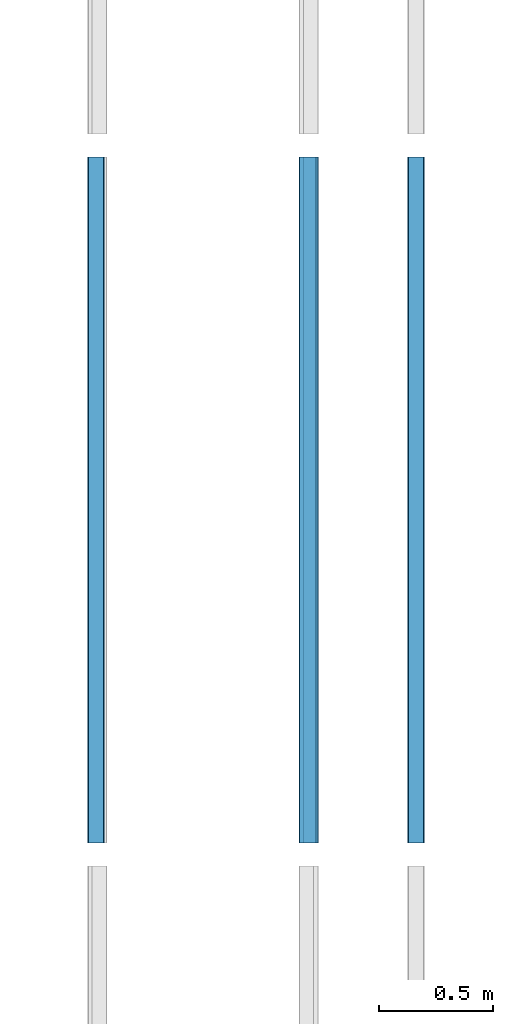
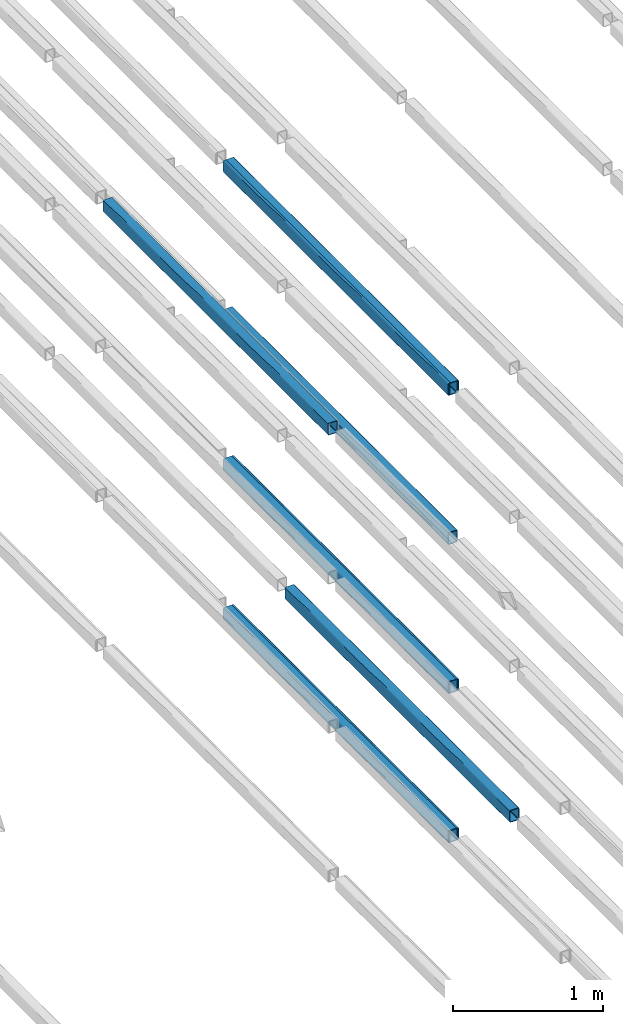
# One storey, part 39 of 290: 9 beams.
"""IFC2X3 building model written with IfcOpenShell, lengths in metres."""

from ifc_helpers import new_model, entity, si_unit, converted_unit, derived_unit, direction, frame, frame_2d, origin, place, context, subcontext, project, spatial, polyline, circle_curve, parameter, trimmed, segment, composite_curve, outline, extrude, material, type_object, element, save


model = new_model("IFC2X3")

# Units and contexts
model_context = context("Model", 3, precision=1e-05, world=origin(), true_north=direction((6.12303176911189e-17, 1.0)))
body_context = subcontext(model_context, "Body", "Model", "MODEL_VIEW")
ifc_project = project(units=[si_unit("LENGTHUNIT", "METRE"), si_unit("AREAUNIT", "SQUARE_METRE"), si_unit("VOLUMEUNIT", "CUBIC_METRE"), converted_unit("PLANEANGLEUNIT", "DEGREE", entity("IfcRatioMeasure", 0.0174532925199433), si_unit("PLANEANGLEUNIT", "RADIAN"), dimensions=[0, 0, 0, 0, 0, 0, 0]), si_unit("MASSUNIT", "GRAM", prefix="KILO"), derived_unit("MASSDENSITYUNIT", [(si_unit("MASSUNIT", "GRAM", prefix="KILO"), 1), (si_unit("LENGTHUNIT", "METRE"), -3)]), derived_unit("MOMENTOFINERTIAUNIT", [(si_unit("LENGTHUNIT", "METRE"), 4)]), si_unit("TIMEUNIT", "SECOND"), si_unit("FREQUENCYUNIT", "HERTZ"), si_unit("THERMODYNAMICTEMPERATUREUNIT", "DEGREE_CELSIUS"), derived_unit("THERMALTRANSMITTANCEUNIT", [(si_unit("MASSUNIT", "GRAM", prefix="KILO"), 1), (si_unit("THERMODYNAMICTEMPERATUREUNIT", "KELVIN"), -1), (si_unit("TIMEUNIT", "SECOND"), -3)]), derived_unit("VOLUMETRICFLOWRATEUNIT", [(si_unit("LENGTHUNIT", "METRE"), 3), (si_unit("TIMEUNIT", "SECOND"), -1)]), si_unit("ELECTRICCURRENTUNIT", "AMPERE"), si_unit("ELECTRICVOLTAGEUNIT", "VOLT"), si_unit("POWERUNIT", "WATT"), si_unit("FORCEUNIT", "NEWTON", prefix="KILO"), si_unit("ILLUMINANCEUNIT", "LUX"), si_unit("LUMINOUSFLUXUNIT", "LUMEN"), si_unit("LUMINOUSINTENSITYUNIT", "CANDELA"), derived_unit("USERDEFINED", [(si_unit("MASSUNIT", "GRAM", prefix="KILO"), -1), (si_unit("LENGTHUNIT", "METRE"), -2), (si_unit("TIMEUNIT", "SECOND"), 3), (si_unit("LUMINOUSFLUXUNIT", "LUMEN"), 1)]), derived_unit("LINEARVELOCITYUNIT", [(si_unit("LENGTHUNIT", "METRE"), 1), (si_unit("TIMEUNIT", "SECOND"), -1)]), si_unit("PRESSUREUNIT", "PASCAL"), derived_unit("USERDEFINED", [(si_unit("LENGTHUNIT", "METRE"), -2), (si_unit("MASSUNIT", "GRAM", prefix="KILO"), 1), (si_unit("TIMEUNIT", "SECOND"), -2)]), derived_unit("LINEARFORCEUNIT", [(si_unit("MASSUNIT", "GRAM", prefix="KILO"), 1), (si_unit("LENGTHUNIT", "METRE"), 1), (si_unit("TIMEUNIT", "SECOND"), -2), (si_unit("LENGTHUNIT", "METRE"), -1)]), derived_unit("PLANARFORCEUNIT", [(si_unit("MASSUNIT", "GRAM", prefix="KILO"), 1), (si_unit("LENGTHUNIT", "METRE"), 1), (si_unit("TIMEUNIT", "SECOND"), -2), (si_unit("LENGTHUNIT", "METRE"), -2)])], contexts=[model_context])

# Site, building, storey
site_placement = place(None, origin())
site = spatial("IfcSite", under=ifc_project, at=site_placement, Name="Default", CompositionType="ELEMENT")
building_placement = place(site_placement, origin())
building = spatial("IfcBuilding", under=site, at=building_placement, CompositionType="ELEMENT")
storey_placement = place(building_placement, frame((0.0, 0.0, 4.0)))
storey = spatial("IfcBuildingStorey", under=building, at=storey_placement, Name="01_OG", CompositionType="ELEMENT", Elevation=4.0)

# Beams
ifc_material = material(Name="Metall - Baustahl S235 blau")
beam_type = type_object("IfcBeamType", Name="RHS Träger (EN 10219-2):RHS 100 x 75 x 5", PredefinedType="NOTDEFINED")
beam_1_placement = place(storey_placement, frame((-200.715111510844, 30.248088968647, -1.2), z_axis=(0.0, 0.0, 1.0), x_axis=(0.0, 1.0, 0.0)))
element("IfcBeam", 1, at=beam_1_placement, inside=storey, type_object=beam_type, material=ifc_material, Name="RHS Träger (EN 10219-2):RHS 100 x 75 x 5", ObjectType="RHS Träger (EN 10219-2):RHS 100 x 75 x 5", context=body_context, shape_type="SweptSolid", body=[
    extrude(outline(composite_curve([segment(trimmed(circle_curve(frame_2d((-0.0274999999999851, -0.0400000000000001), x_axis=(1.0, 0.0)), 0.01), [parameter(180.0)], [parameter(270.0)], True, "PARAMETER"), True, "CONTINUOUS"), segment(polyline([(-0.0274999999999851, -0.05), (0.0274999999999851, -0.05)]), True, "CONTINUOUS"), segment(trimmed(circle_curve(frame_2d((0.0274999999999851, -0.0400000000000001), x_axis=(1.0, 0.0)), 0.01), [parameter(270.0)], [parameter(5.08888749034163e-14)], True, "PARAMETER"), True, "CONTINUOUS"), segment(polyline([(0.0375000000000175, -0.0400000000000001), (0.0375000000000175, 0.0400000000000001)]), True, "CONTINUOUS"), segment(trimmed(circle_curve(frame_2d((0.0274999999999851, 0.0400000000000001), x_axis=(1.0, 0.0)), 0.01), [parameter(360.0)], [parameter(89.9999999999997)], True, "PARAMETER"), True, "CONTINUOUS"), segment(polyline([(0.0274999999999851, 0.05), (-0.0274999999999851, 0.05)]), True, "CONTINUOUS"), segment(trimmed(circle_curve(frame_2d((-0.0274999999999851, 0.0400000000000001), x_axis=(1.0, 0.0)), 0.01), [parameter(90.0000000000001)], [parameter(180.0)], True, "PARAMETER"), True, "CONTINUOUS"), segment(polyline([(-0.0374999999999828, 0.0400000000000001), (-0.0374999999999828, -0.0400000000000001)]), True, "CONTINUOUS")], self_intersect=False), holes=[composite_curve([segment(polyline([(0.0274999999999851, -0.0450000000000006), (-0.0274999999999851, -0.0450000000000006)]), True, "CONTINUOUS"), segment(trimmed(circle_curve(frame_2d((-0.0274999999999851, -0.0400000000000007), x_axis=(1.0, 0.0)), 0.005), [parameter(180.0)], [parameter(270.0)], True, "PARAMETER"), False, "CONTINUOUS"), segment(polyline([(-0.0325000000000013, -0.0400000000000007), (-0.0325000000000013, 0.039999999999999)]), True, "CONTINUOUS"), segment(trimmed(circle_curve(frame_2d((-0.0274999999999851, 0.039999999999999), x_axis=(1.0, 0.0)), 0.005), [parameter(90.0000000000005)], [parameter(180.0)], True, "PARAMETER"), False, "CONTINUOUS"), segment(polyline([(-0.0274999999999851, 0.044999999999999), (0.0274999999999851, 0.044999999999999)]), True, "CONTINUOUS"), segment(trimmed(circle_curve(frame_2d((0.0274999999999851, 0.039999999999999), x_axis=(1.0, 0.0)), 0.005), [parameter(0.0)], [parameter(90.0000000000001)], True, "PARAMETER"), False, "CONTINUOUS"), segment(polyline([(0.0325000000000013, 0.039999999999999), (0.0325000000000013, -0.0400000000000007)]), True, "CONTINUOUS"), segment(trimmed(circle_curve(frame_2d((0.0274999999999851, -0.0400000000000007), x_axis=(1.0, 0.0)), 0.005), [parameter(270.0)], [parameter(4.07110999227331e-13)], True, "PARAMETER"), False, "CONTINUOUS")], self_intersect=False)]), frame((0.000100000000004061, 0.0375000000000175, -0.0500000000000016), z_axis=(1.0, 0.0, 0.0), x_axis=(0.0, -1.0, 0.0)), (0.0, 0.0, 1.0), 2.9998),
])
beam_2_placement = place(storey_placement, frame((-201.255111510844, 30.248088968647, -1.2), z_axis=(0.0, 0.0, 1.0), x_axis=(0.0, 1.0, 0.0)))
element("IfcBeam", 2, at=beam_2_placement, inside=storey, type_object=beam_type, material=ifc_material, Name="RHS Träger (EN 10219-2):RHS 100 x 75 x 5", ObjectType="RHS Träger (EN 10219-2):RHS 100 x 75 x 5", context=body_context, shape_type="SweptSolid", body=[
    extrude(outline(composite_curve([segment(polyline([(-0.0400000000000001, -0.0374999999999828), (0.0400000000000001, -0.0374999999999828)]), True, "CONTINUOUS"), segment(trimmed(circle_curve(frame_2d((0.0400000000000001, -0.0274999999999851), x_axis=(0.0, 1.0)), 0.01), [parameter(180.0)], [parameter(270.0)], True, "PARAMETER"), True, "CONTINUOUS"), segment(polyline([(0.05, -0.0274999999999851), (0.05, 0.0274999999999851)]), True, "CONTINUOUS"), segment(trimmed(circle_curve(frame_2d((0.0400000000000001, 0.0274999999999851), x_axis=(0.0, 1.0)), 0.01), [parameter(270.0)], [parameter(4.07110999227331e-13)], True, "PARAMETER"), True, "CONTINUOUS"), segment(polyline([(0.0400000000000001, 0.0375000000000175), (-0.0400000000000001, 0.0375000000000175)]), True, "CONTINUOUS"), segment(trimmed(circle_curve(frame_2d((-0.0400000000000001, 0.0274999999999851), x_axis=(0.0, 1.0)), 0.01), [parameter(360.0)], [parameter(90.0000000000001)], True, "PARAMETER"), True, "CONTINUOUS"), segment(polyline([(-0.05, 0.0274999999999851), (-0.05, -0.0274999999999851)]), True, "CONTINUOUS"), segment(trimmed(circle_curve(frame_2d((-0.0400000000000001, -0.0274999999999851), x_axis=(0.0, 1.0)), 0.01), [parameter(90.0000000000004)], [parameter(180.0)], True, "PARAMETER"), True, "CONTINUOUS")], self_intersect=False), holes=[composite_curve([segment(trimmed(circle_curve(frame_2d((-0.0400000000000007, 0.0274999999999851), x_axis=(0.0, 1.0)), 0.005), [parameter(360.0)], [parameter(89.9999999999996)], True, "PARAMETER"), False, "CONTINUOUS"), segment(polyline([(-0.0400000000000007, 0.0325000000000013), (0.039999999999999, 0.0325000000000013)]), True, "CONTINUOUS"), segment(trimmed(circle_curve(frame_2d((0.039999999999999, 0.0274999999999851), x_axis=(0.0, 1.0)), 0.005), [parameter(270.0)], [parameter(0.0)], True, "PARAMETER"), False, "CONTINUOUS"), segment(polyline([(0.044999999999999, 0.0274999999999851), (0.044999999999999, -0.0274999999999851)]), True, "CONTINUOUS"), segment(trimmed(circle_curve(frame_2d((0.039999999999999, -0.0274999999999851), x_axis=(0.0, 1.0)), 0.005), [parameter(180.0)], [parameter(269.999999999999)], True, "PARAMETER"), False, "CONTINUOUS"), segment(polyline([(0.039999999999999, -0.0325000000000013), (-0.0400000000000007, -0.0325000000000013)]), True, "CONTINUOUS"), segment(trimmed(circle_curve(frame_2d((-0.0400000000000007, -0.0274999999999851), x_axis=(0.0, 1.0)), 0.005), [parameter(90.0000000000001)], [parameter(180.0)], True, "PARAMETER"), False, "CONTINUOUS"), segment(polyline([(-0.0450000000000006, -0.0274999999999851), (-0.0450000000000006, 0.0274999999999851)]), True, "CONTINUOUS")], self_intersect=False)]), frame((0.000100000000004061, -0.0375000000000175, -0.0500000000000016), z_axis=(1.0, 0.0, 0.0), x_axis=(0.0, 0.0, -1.0)), (0.0, 0.0, 1.0), 2.9998),
])
beam_3_placement = place(storey_placement, frame((-201.255111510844, 30.248088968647, 0.0150000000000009), z_axis=(0.0, 0.0, 1.0), x_axis=(0.0, 1.0, 0.0)))
element("IfcBeam", 3, at=beam_3_placement, inside=storey, type_object=beam_type, material=ifc_material, Name="RHS Träger (EN 10219-2):RHS 100 x 75 x 5", ObjectType="RHS Träger (EN 10219-2):RHS 100 x 75 x 5", context=body_context, shape_type="SweptSolid", body=[
    extrude(outline(composite_curve([segment(polyline([(-0.0400000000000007, -0.0374999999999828), (0.0399999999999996, -0.0374999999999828)]), True, "CONTINUOUS"), segment(trimmed(circle_curve(frame_2d((0.0399999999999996, -0.0274999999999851), x_axis=(0.0, 1.0)), 0.01), [parameter(180.0)], [parameter(270.0)], True, "PARAMETER"), True, "CONTINUOUS"), segment(polyline([(0.0499999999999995, -0.0274999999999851), (0.0499999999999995, 0.0274999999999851)]), True, "CONTINUOUS"), segment(trimmed(circle_curve(frame_2d((0.0399999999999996, 0.0274999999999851), x_axis=(0.0, 1.0)), 0.01), [parameter(270.0)], [parameter(4.07110999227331e-13)], True, "PARAMETER"), True, "CONTINUOUS"), segment(polyline([(0.0399999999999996, 0.0375000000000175), (-0.0400000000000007, 0.0375000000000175)]), True, "CONTINUOUS"), segment(trimmed(circle_curve(frame_2d((-0.0400000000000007, 0.0274999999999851), x_axis=(0.0, 1.0)), 0.01), [parameter(360.0)], [parameter(90.0000000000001)], True, "PARAMETER"), True, "CONTINUOUS"), segment(polyline([(-0.0500000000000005, 0.0274999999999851), (-0.0500000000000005, -0.0274999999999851)]), True, "CONTINUOUS"), segment(trimmed(circle_curve(frame_2d((-0.0400000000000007, -0.0274999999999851), x_axis=(0.0, 1.0)), 0.01), [parameter(90.0000000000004)], [parameter(180.0)], True, "PARAMETER"), True, "CONTINUOUS")], self_intersect=False), holes=[composite_curve([segment(trimmed(circle_curve(frame_2d((-0.0400000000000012, 0.0274999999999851), x_axis=(0.0, 1.0)), 0.005), [parameter(360.0)], [parameter(89.9999999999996)], True, "PARAMETER"), False, "CONTINUOUS"), segment(polyline([(-0.0400000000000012, 0.0325000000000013), (0.0399999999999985, 0.0325000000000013)]), True, "CONTINUOUS"), segment(trimmed(circle_curve(frame_2d((0.0399999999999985, 0.0274999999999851), x_axis=(0.0, 1.0)), 0.005), [parameter(270.0)], [parameter(0.0)], True, "PARAMETER"), False, "CONTINUOUS"), segment(polyline([(0.0449999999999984, 0.0274999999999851), (0.0449999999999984, -0.0274999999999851)]), True, "CONTINUOUS"), segment(trimmed(circle_curve(frame_2d((0.0399999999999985, -0.0274999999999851), x_axis=(0.0, 1.0)), 0.005), [parameter(180.0)], [parameter(269.999999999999)], True, "PARAMETER"), False, "CONTINUOUS"), segment(polyline([(0.0399999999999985, -0.0325000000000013), (-0.0400000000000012, -0.0325000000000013)]), True, "CONTINUOUS"), segment(trimmed(circle_curve(frame_2d((-0.0400000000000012, -0.0274999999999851), x_axis=(0.0, 1.0)), 0.005), [parameter(90.0000000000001)], [parameter(180.0)], True, "PARAMETER"), False, "CONTINUOUS"), segment(polyline([(-0.0450000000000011, -0.0274999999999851), (-0.0450000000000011, 0.0274999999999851)]), True, "CONTINUOUS")], self_intersect=False)]), frame((0.000100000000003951, -0.0375000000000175, -0.0500000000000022), z_axis=(1.0, 0.0, 0.0), x_axis=(0.0, 0.0, -1.0)), (0.0, 0.0, 1.0), 2.9998),
])
beam_4_placement = place(storey_placement, frame((-201.255111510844, 30.248088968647, 2.445), z_axis=(0.0, 0.0, 1.0), x_axis=(0.0, 1.0, 0.0)))
element("IfcBeam", 4, at=beam_4_placement, inside=storey, type_object=beam_type, material=ifc_material, Name="RHS Träger (EN 10219-2):RHS 100 x 75 x 5", ObjectType="RHS Träger (EN 10219-2):RHS 100 x 75 x 5", context=body_context, shape_type="SweptSolid", body=[
    extrude(outline(composite_curve([segment(polyline([(-0.0399999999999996, -0.0374999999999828), (0.0399999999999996, -0.0374999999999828)]), True, "CONTINUOUS"), segment(trimmed(circle_curve(frame_2d((0.0399999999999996, -0.0274999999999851), x_axis=(0.0, 1.0)), 0.01), [parameter(180.0)], [parameter(270.0)], True, "PARAMETER"), True, "CONTINUOUS"), segment(polyline([(0.0500000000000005, -0.0274999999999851), (0.0500000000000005, 0.0274999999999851)]), True, "CONTINUOUS"), segment(trimmed(circle_curve(frame_2d((0.0399999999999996, 0.0274999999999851), x_axis=(0.0, 1.0)), 0.01), [parameter(270.0)], [parameter(4.07110999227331e-13)], True, "PARAMETER"), True, "CONTINUOUS"), segment(polyline([(0.0399999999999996, 0.0375000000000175), (-0.0399999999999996, 0.0375000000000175)]), True, "CONTINUOUS"), segment(trimmed(circle_curve(frame_2d((-0.0399999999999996, 0.0274999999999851), x_axis=(0.0, 1.0)), 0.01), [parameter(360.0)], [parameter(90.0000000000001)], True, "PARAMETER"), True, "CONTINUOUS"), segment(polyline([(-0.0499999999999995, 0.0274999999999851), (-0.0499999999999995, -0.0274999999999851)]), True, "CONTINUOUS"), segment(trimmed(circle_curve(frame_2d((-0.0399999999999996, -0.0274999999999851), x_axis=(0.0, 1.0)), 0.01), [parameter(90.0000000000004)], [parameter(180.0)], True, "PARAMETER"), True, "CONTINUOUS")], self_intersect=False), holes=[composite_curve([segment(trimmed(circle_curve(frame_2d((-0.0400000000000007, 0.0274999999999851), x_axis=(0.0, 1.0)), 0.005), [parameter(360.0)], [parameter(89.9999999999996)], True, "PARAMETER"), False, "CONTINUOUS"), segment(polyline([(-0.0400000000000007, 0.0325000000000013), (0.0399999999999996, 0.0325000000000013)]), True, "CONTINUOUS"), segment(trimmed(circle_curve(frame_2d((0.0399999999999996, 0.0274999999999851), x_axis=(0.0, 1.0)), 0.005), [parameter(270.0)], [parameter(0.0)], True, "PARAMETER"), False, "CONTINUOUS"), segment(polyline([(0.0449999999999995, 0.0274999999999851), (0.0449999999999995, -0.0274999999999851)]), True, "CONTINUOUS"), segment(trimmed(circle_curve(frame_2d((0.0399999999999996, -0.0274999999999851), x_axis=(0.0, 1.0)), 0.005), [parameter(180.0)], [parameter(269.999999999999)], True, "PARAMETER"), False, "CONTINUOUS"), segment(polyline([(0.0399999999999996, -0.0325000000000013), (-0.0400000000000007, -0.0325000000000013)]), True, "CONTINUOUS"), segment(trimmed(circle_curve(frame_2d((-0.0400000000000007, -0.0274999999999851), x_axis=(0.0, 1.0)), 0.005), [parameter(90.0000000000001)], [parameter(180.0)], True, "PARAMETER"), False, "CONTINUOUS"), segment(polyline([(-0.0450000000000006, -0.0274999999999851), (-0.0450000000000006, 0.0274999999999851)]), True, "CONTINUOUS")], self_intersect=False)]), frame((0.000100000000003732, -0.0375000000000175, -0.0500000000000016), z_axis=(1.0, 0.0, 0.0), x_axis=(0.0, 0.0, -1.0)), (0.0, 0.0, 1.0), 2.9998),
])
beam_5_placement = place(storey_placement, frame((-202.115111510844, 30.248088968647, 2.445), z_axis=(0.0, 0.0, 1.0), x_axis=(0.0, 1.0, 0.0)))
element("IfcBeam", 5, at=beam_5_placement, inside=storey, type_object=beam_type, material=ifc_material, Name="RHS Träger (EN 10219-2):RHS 100 x 75 x 5", ObjectType="RHS Träger (EN 10219-2):RHS 100 x 75 x 5", context=body_context, shape_type="SweptSolid", body=[
    extrude(outline(composite_curve([segment(trimmed(circle_curve(frame_2d((-0.0274999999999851, -0.0399999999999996), x_axis=(1.0, 0.0)), 0.01), [parameter(180.0)], [parameter(270.0)], True, "PARAMETER"), True, "CONTINUOUS"), segment(polyline([(-0.0274999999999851, -0.0499999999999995), (0.0274999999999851, -0.0499999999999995)]), True, "CONTINUOUS"), segment(trimmed(circle_curve(frame_2d((0.0274999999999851, -0.0399999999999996), x_axis=(1.0, 0.0)), 0.01), [parameter(270.0)], [parameter(5.08888749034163e-14)], True, "PARAMETER"), True, "CONTINUOUS"), segment(polyline([(0.0375000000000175, -0.0399999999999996), (0.0375000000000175, 0.0399999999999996)]), True, "CONTINUOUS"), segment(trimmed(circle_curve(frame_2d((0.0274999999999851, 0.0399999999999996), x_axis=(1.0, 0.0)), 0.01), [parameter(360.0)], [parameter(89.9999999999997)], True, "PARAMETER"), True, "CONTINUOUS"), segment(polyline([(0.0274999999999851, 0.0500000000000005), (-0.0274999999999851, 0.0500000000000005)]), True, "CONTINUOUS"), segment(trimmed(circle_curve(frame_2d((-0.0274999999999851, 0.0399999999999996), x_axis=(1.0, 0.0)), 0.01), [parameter(90.0000000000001)], [parameter(180.0)], True, "PARAMETER"), True, "CONTINUOUS"), segment(polyline([(-0.0374999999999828, 0.0399999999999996), (-0.0374999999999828, -0.0399999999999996)]), True, "CONTINUOUS")], self_intersect=False), holes=[composite_curve([segment(polyline([(0.0274999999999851, -0.0450000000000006), (-0.0274999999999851, -0.0450000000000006)]), True, "CONTINUOUS"), segment(trimmed(circle_curve(frame_2d((-0.0274999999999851, -0.0400000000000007), x_axis=(1.0, 0.0)), 0.005), [parameter(180.0)], [parameter(270.0)], True, "PARAMETER"), False, "CONTINUOUS"), segment(polyline([(-0.0325000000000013, -0.0400000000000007), (-0.0325000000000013, 0.0399999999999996)]), True, "CONTINUOUS"), segment(trimmed(circle_curve(frame_2d((-0.0274999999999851, 0.0399999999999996), x_axis=(1.0, 0.0)), 0.005), [parameter(90.0000000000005)], [parameter(180.0)], True, "PARAMETER"), False, "CONTINUOUS"), segment(polyline([(-0.0274999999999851, 0.0449999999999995), (0.0274999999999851, 0.0449999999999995)]), True, "CONTINUOUS"), segment(trimmed(circle_curve(frame_2d((0.0274999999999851, 0.0399999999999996), x_axis=(1.0, 0.0)), 0.005), [parameter(0.0)], [parameter(90.0000000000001)], True, "PARAMETER"), False, "CONTINUOUS"), segment(polyline([(0.0325000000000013, 0.0399999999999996), (0.0325000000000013, -0.0400000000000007)]), True, "CONTINUOUS"), segment(trimmed(circle_curve(frame_2d((0.0274999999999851, -0.0400000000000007), x_axis=(1.0, 0.0)), 0.005), [parameter(270.0)], [parameter(4.07110999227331e-13)], True, "PARAMETER"), False, "CONTINUOUS")], self_intersect=False)]), frame((0.000100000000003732, 0.0375000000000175, -0.0500000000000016), z_axis=(1.0, 0.0, 0.0), x_axis=(0.0, -1.0, 0.0)), (0.0, 0.0, 1.0), 2.9998),
])
beam_6_placement = place(storey_placement, frame((-201.265111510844, 30.248088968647, -1.2), z_axis=(0.0, 0.0, 1.0), x_axis=(0.0, 1.0, 0.0)))
element("IfcBeam", 6, at=beam_6_placement, inside=storey, type_object=beam_type, material=ifc_material, Name="RHS Träger (EN 10219-2):RHS 100 x 75 x 5", ObjectType="RHS Träger (EN 10219-2):RHS 100 x 75 x 5", context=body_context, shape_type="SweptSolid", body=[
    extrude(outline(composite_curve([segment(polyline([(-0.0400000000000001, -0.0374999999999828), (0.0400000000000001, -0.0374999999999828)]), True, "CONTINUOUS"), segment(trimmed(circle_curve(frame_2d((0.0400000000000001, -0.0274999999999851), x_axis=(0.0, 1.0)), 0.01), [parameter(180.0)], [parameter(270.0)], True, "PARAMETER"), True, "CONTINUOUS"), segment(polyline([(0.05, -0.0274999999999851), (0.05, 0.0274999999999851)]), True, "CONTINUOUS"), segment(trimmed(circle_curve(frame_2d((0.0400000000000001, 0.0274999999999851), x_axis=(0.0, 1.0)), 0.01), [parameter(270.0)], [parameter(4.07110999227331e-13)], True, "PARAMETER"), True, "CONTINUOUS"), segment(polyline([(0.0400000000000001, 0.0375000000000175), (-0.0400000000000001, 0.0375000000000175)]), True, "CONTINUOUS"), segment(trimmed(circle_curve(frame_2d((-0.0400000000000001, 0.0274999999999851), x_axis=(0.0, 1.0)), 0.01), [parameter(360.0)], [parameter(90.0000000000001)], True, "PARAMETER"), True, "CONTINUOUS"), segment(polyline([(-0.05, 0.0274999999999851), (-0.05, -0.0274999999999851)]), True, "CONTINUOUS"), segment(trimmed(circle_curve(frame_2d((-0.0400000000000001, -0.0274999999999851), x_axis=(0.0, 1.0)), 0.01), [parameter(90.0000000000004)], [parameter(180.0)], True, "PARAMETER"), True, "CONTINUOUS")], self_intersect=False), holes=[composite_curve([segment(trimmed(circle_curve(frame_2d((-0.0400000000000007, 0.0274999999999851), x_axis=(0.0, 1.0)), 0.005), [parameter(360.0)], [parameter(89.9999999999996)], True, "PARAMETER"), False, "CONTINUOUS"), segment(polyline([(-0.0400000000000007, 0.0325000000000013), (0.039999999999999, 0.0325000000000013)]), True, "CONTINUOUS"), segment(trimmed(circle_curve(frame_2d((0.039999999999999, 0.0274999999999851), x_axis=(0.0, 1.0)), 0.005), [parameter(270.0)], [parameter(0.0)], True, "PARAMETER"), False, "CONTINUOUS"), segment(polyline([(0.044999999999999, 0.0274999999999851), (0.044999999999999, -0.0274999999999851)]), True, "CONTINUOUS"), segment(trimmed(circle_curve(frame_2d((0.039999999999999, -0.0274999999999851), x_axis=(0.0, 1.0)), 0.005), [parameter(180.0)], [parameter(269.999999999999)], True, "PARAMETER"), False, "CONTINUOUS"), segment(polyline([(0.039999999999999, -0.0325000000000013), (-0.0400000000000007, -0.0325000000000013)]), True, "CONTINUOUS"), segment(trimmed(circle_curve(frame_2d((-0.0400000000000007, -0.0274999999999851), x_axis=(0.0, 1.0)), 0.005), [parameter(90.0000000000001)], [parameter(180.0)], True, "PARAMETER"), False, "CONTINUOUS"), segment(polyline([(-0.0450000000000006, -0.0274999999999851), (-0.0450000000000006, 0.0274999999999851)]), True, "CONTINUOUS")], self_intersect=False)]), frame((0.000100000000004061, -0.0375000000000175, -0.0500000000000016), z_axis=(1.0, 0.0, 0.0), x_axis=(0.0, 0.0, -1.0)), (0.0, 0.0, 1.0), 2.9998),
])
beam_7_placement = place(storey_placement, frame((-201.265111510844, 30.248088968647, 0.0150000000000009), z_axis=(0.0, 0.0, 1.0), x_axis=(0.0, 1.0, 0.0)))
element("IfcBeam", 7, at=beam_7_placement, inside=storey, type_object=beam_type, material=ifc_material, Name="RHS Träger (EN 10219-2):RHS 100 x 75 x 5", ObjectType="RHS Träger (EN 10219-2):RHS 100 x 75 x 5", context=body_context, shape_type="SweptSolid", body=[
    extrude(outline(composite_curve([segment(polyline([(-0.0400000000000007, -0.0374999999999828), (0.0399999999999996, -0.0374999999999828)]), True, "CONTINUOUS"), segment(trimmed(circle_curve(frame_2d((0.0399999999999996, -0.0274999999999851), x_axis=(0.0, 1.0)), 0.01), [parameter(180.0)], [parameter(270.0)], True, "PARAMETER"), True, "CONTINUOUS"), segment(polyline([(0.0499999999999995, -0.0274999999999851), (0.0499999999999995, 0.0274999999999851)]), True, "CONTINUOUS"), segment(trimmed(circle_curve(frame_2d((0.0399999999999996, 0.0274999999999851), x_axis=(0.0, 1.0)), 0.01), [parameter(270.0)], [parameter(4.07110999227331e-13)], True, "PARAMETER"), True, "CONTINUOUS"), segment(polyline([(0.0399999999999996, 0.0375000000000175), (-0.0400000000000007, 0.0375000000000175)]), True, "CONTINUOUS"), segment(trimmed(circle_curve(frame_2d((-0.0400000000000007, 0.0274999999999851), x_axis=(0.0, 1.0)), 0.01), [parameter(360.0)], [parameter(90.0000000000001)], True, "PARAMETER"), True, "CONTINUOUS"), segment(polyline([(-0.0500000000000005, 0.0274999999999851), (-0.0500000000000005, -0.0274999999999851)]), True, "CONTINUOUS"), segment(trimmed(circle_curve(frame_2d((-0.0400000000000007, -0.0274999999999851), x_axis=(0.0, 1.0)), 0.01), [parameter(90.0000000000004)], [parameter(180.0)], True, "PARAMETER"), True, "CONTINUOUS")], self_intersect=False), holes=[composite_curve([segment(trimmed(circle_curve(frame_2d((-0.0400000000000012, 0.0274999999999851), x_axis=(0.0, 1.0)), 0.005), [parameter(360.0)], [parameter(89.9999999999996)], True, "PARAMETER"), False, "CONTINUOUS"), segment(polyline([(-0.0400000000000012, 0.0325000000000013), (0.0399999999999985, 0.0325000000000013)]), True, "CONTINUOUS"), segment(trimmed(circle_curve(frame_2d((0.0399999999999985, 0.0274999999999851), x_axis=(0.0, 1.0)), 0.005), [parameter(270.0)], [parameter(0.0)], True, "PARAMETER"), False, "CONTINUOUS"), segment(polyline([(0.0449999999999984, 0.0274999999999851), (0.0449999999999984, -0.0274999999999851)]), True, "CONTINUOUS"), segment(trimmed(circle_curve(frame_2d((0.0399999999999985, -0.0274999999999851), x_axis=(0.0, 1.0)), 0.005), [parameter(180.0)], [parameter(269.999999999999)], True, "PARAMETER"), False, "CONTINUOUS"), segment(polyline([(0.0399999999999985, -0.0325000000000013), (-0.0400000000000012, -0.0325000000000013)]), True, "CONTINUOUS"), segment(trimmed(circle_curve(frame_2d((-0.0400000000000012, -0.0274999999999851), x_axis=(0.0, 1.0)), 0.005), [parameter(90.0000000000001)], [parameter(180.0)], True, "PARAMETER"), False, "CONTINUOUS"), segment(polyline([(-0.0450000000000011, -0.0274999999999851), (-0.0450000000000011, 0.0274999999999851)]), True, "CONTINUOUS")], self_intersect=False)]), frame((0.000100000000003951, -0.0375000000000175, -0.0500000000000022), z_axis=(1.0, 0.0, 0.0), x_axis=(0.0, 0.0, -1.0)), (0.0, 0.0, 1.0), 2.9998),
])
beam_8_placement = place(storey_placement, frame((-201.265111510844, 30.248088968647, 1.23), z_axis=(0.0, 0.0, 1.0), x_axis=(0.0, 1.0, 0.0)))
element("IfcBeam", 8, at=beam_8_placement, inside=storey, type_object=beam_type, material=ifc_material, Name="RHS Träger (EN 10219-2):RHS 100 x 75 x 5", ObjectType="RHS Träger (EN 10219-2):RHS 100 x 75 x 5", context=body_context, shape_type="SweptSolid", body=[
    extrude(outline(composite_curve([segment(polyline([(-0.0399999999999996, -0.0374999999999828), (0.0399999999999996, -0.0374999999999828)]), True, "CONTINUOUS"), segment(trimmed(circle_curve(frame_2d((0.0399999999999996, -0.0274999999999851), x_axis=(0.0, 1.0)), 0.01), [parameter(180.0)], [parameter(270.0)], True, "PARAMETER"), True, "CONTINUOUS"), segment(polyline([(0.0500000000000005, -0.0274999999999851), (0.0500000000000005, 0.0274999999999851)]), True, "CONTINUOUS"), segment(trimmed(circle_curve(frame_2d((0.0399999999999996, 0.0274999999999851), x_axis=(0.0, 1.0)), 0.01), [parameter(270.0)], [parameter(4.07110999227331e-13)], True, "PARAMETER"), True, "CONTINUOUS"), segment(polyline([(0.0399999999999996, 0.0375000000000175), (-0.0399999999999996, 0.0375000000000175)]), True, "CONTINUOUS"), segment(trimmed(circle_curve(frame_2d((-0.0399999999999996, 0.0274999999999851), x_axis=(0.0, 1.0)), 0.01), [parameter(360.0)], [parameter(90.0000000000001)], True, "PARAMETER"), True, "CONTINUOUS"), segment(polyline([(-0.0499999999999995, 0.0274999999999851), (-0.0499999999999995, -0.0274999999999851)]), True, "CONTINUOUS"), segment(trimmed(circle_curve(frame_2d((-0.0399999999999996, -0.0274999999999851), x_axis=(0.0, 1.0)), 0.01), [parameter(90.0000000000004)], [parameter(180.0)], True, "PARAMETER"), True, "CONTINUOUS")], self_intersect=False), holes=[composite_curve([segment(trimmed(circle_curve(frame_2d((-0.0400000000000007, 0.0274999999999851), x_axis=(0.0, 1.0)), 0.005), [parameter(360.0)], [parameter(89.9999999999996)], True, "PARAMETER"), False, "CONTINUOUS"), segment(polyline([(-0.0400000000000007, 0.0325000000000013), (0.0399999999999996, 0.0325000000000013)]), True, "CONTINUOUS"), segment(trimmed(circle_curve(frame_2d((0.0399999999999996, 0.0274999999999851), x_axis=(0.0, 1.0)), 0.005), [parameter(270.0)], [parameter(0.0)], True, "PARAMETER"), False, "CONTINUOUS"), segment(polyline([(0.0449999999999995, 0.0274999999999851), (0.0449999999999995, -0.0274999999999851)]), True, "CONTINUOUS"), segment(trimmed(circle_curve(frame_2d((0.0399999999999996, -0.0274999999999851), x_axis=(0.0, 1.0)), 0.005), [parameter(180.0)], [parameter(269.999999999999)], True, "PARAMETER"), False, "CONTINUOUS"), segment(polyline([(0.0399999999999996, -0.0325000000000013), (-0.0400000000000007, -0.0325000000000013)]), True, "CONTINUOUS"), segment(trimmed(circle_curve(frame_2d((-0.0400000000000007, -0.0274999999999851), x_axis=(0.0, 1.0)), 0.005), [parameter(90.0000000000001)], [parameter(180.0)], True, "PARAMETER"), False, "CONTINUOUS"), segment(polyline([(-0.0450000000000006, -0.0274999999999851), (-0.0450000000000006, 0.0274999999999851)]), True, "CONTINUOUS")], self_intersect=False)]), frame((0.000100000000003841, -0.0375000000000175, -0.0500000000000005), z_axis=(1.0, 0.0, 0.0), x_axis=(0.0, 0.0, -1.0)), (0.0, 0.0, 1.0), 2.9998),
])
beam_9_placement = place(storey_placement, frame((-201.265111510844, 30.248088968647, 2.445), z_axis=(0.0, 0.0, 1.0), x_axis=(0.0, 1.0, 0.0)))
element("IfcBeam", 9, at=beam_9_placement, inside=storey, type_object=beam_type, material=ifc_material, Name="RHS Träger (EN 10219-2):RHS 100 x 75 x 5", ObjectType="RHS Träger (EN 10219-2):RHS 100 x 75 x 5", context=body_context, shape_type="SweptSolid", body=[
    extrude(outline(composite_curve([segment(polyline([(-0.0399999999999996, -0.0374999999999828), (0.0399999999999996, -0.0374999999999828)]), True, "CONTINUOUS"), segment(trimmed(circle_curve(frame_2d((0.0399999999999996, -0.0274999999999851), x_axis=(0.0, 1.0)), 0.01), [parameter(180.0)], [parameter(270.0)], True, "PARAMETER"), True, "CONTINUOUS"), segment(polyline([(0.0500000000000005, -0.0274999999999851), (0.0500000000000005, 0.0274999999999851)]), True, "CONTINUOUS"), segment(trimmed(circle_curve(frame_2d((0.0399999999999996, 0.0274999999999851), x_axis=(0.0, 1.0)), 0.01), [parameter(270.0)], [parameter(4.07110999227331e-13)], True, "PARAMETER"), True, "CONTINUOUS"), segment(polyline([(0.0399999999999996, 0.0375000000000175), (-0.0399999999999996, 0.0375000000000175)]), True, "CONTINUOUS"), segment(trimmed(circle_curve(frame_2d((-0.0399999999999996, 0.0274999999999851), x_axis=(0.0, 1.0)), 0.01), [parameter(360.0)], [parameter(90.0000000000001)], True, "PARAMETER"), True, "CONTINUOUS"), segment(polyline([(-0.0499999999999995, 0.0274999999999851), (-0.0499999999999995, -0.0274999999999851)]), True, "CONTINUOUS"), segment(trimmed(circle_curve(frame_2d((-0.0399999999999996, -0.0274999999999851), x_axis=(0.0, 1.0)), 0.01), [parameter(90.0000000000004)], [parameter(180.0)], True, "PARAMETER"), True, "CONTINUOUS")], self_intersect=False), holes=[composite_curve([segment(trimmed(circle_curve(frame_2d((-0.0400000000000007, 0.0274999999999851), x_axis=(0.0, 1.0)), 0.005), [parameter(360.0)], [parameter(89.9999999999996)], True, "PARAMETER"), False, "CONTINUOUS"), segment(polyline([(-0.0400000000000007, 0.0325000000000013), (0.0399999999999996, 0.0325000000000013)]), True, "CONTINUOUS"), segment(trimmed(circle_curve(frame_2d((0.0399999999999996, 0.0274999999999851), x_axis=(0.0, 1.0)), 0.005), [parameter(270.0)], [parameter(0.0)], True, "PARAMETER"), False, "CONTINUOUS"), segment(polyline([(0.0449999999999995, 0.0274999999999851), (0.0449999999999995, -0.0274999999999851)]), True, "CONTINUOUS"), segment(trimmed(circle_curve(frame_2d((0.0399999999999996, -0.0274999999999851), x_axis=(0.0, 1.0)), 0.005), [parameter(180.0)], [parameter(269.999999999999)], True, "PARAMETER"), False, "CONTINUOUS"), segment(polyline([(0.0399999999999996, -0.0325000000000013), (-0.0400000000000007, -0.0325000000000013)]), True, "CONTINUOUS"), segment(trimmed(circle_curve(frame_2d((-0.0400000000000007, -0.0274999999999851), x_axis=(0.0, 1.0)), 0.005), [parameter(90.0000000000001)], [parameter(180.0)], True, "PARAMETER"), False, "CONTINUOUS"), segment(polyline([(-0.0450000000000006, -0.0274999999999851), (-0.0450000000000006, 0.0274999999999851)]), True, "CONTINUOUS")], self_intersect=False)]), frame((0.000100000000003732, -0.0375000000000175, -0.0500000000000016), z_axis=(1.0, 0.0, 0.0), x_axis=(0.0, 0.0, -1.0)), (0.0, 0.0, 1.0), 2.9998),
])

save(model, "model.ifc")
